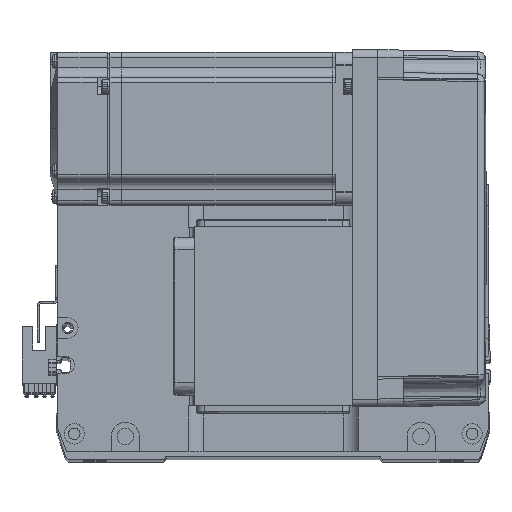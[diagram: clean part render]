
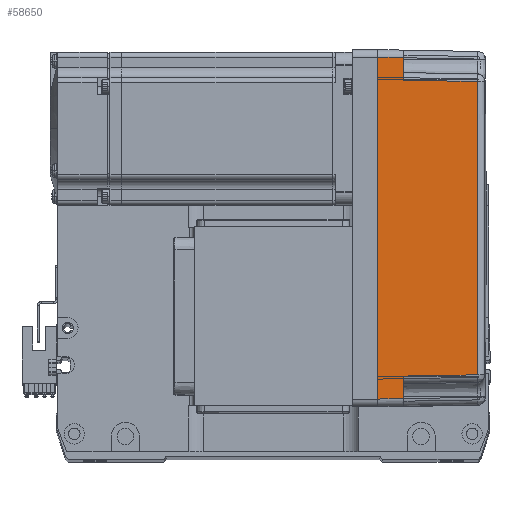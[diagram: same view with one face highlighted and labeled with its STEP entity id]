
A CAD part, top view. The second image highlights one B-rep face of the part: STEP entity #58650.
In plain terms, the highlighted planar face has unit normal (0.018, 0, 1) as drawn and (0, -1, 0.017) by its records, which use the part's own axes.
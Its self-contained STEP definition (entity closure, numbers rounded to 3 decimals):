
#751 = CARTESIAN_POINT ( 'NONE',  ( 70., -36., 0. ) ) ;
#966 = EDGE_CURVE ( 'NONE', #9603, #36019, #34088, .T. ) ;
#1950 = ORIENTED_EDGE ( 'NONE', *, *, #56020, .T. ) ;
#4414 = EDGE_CURVE ( 'NONE', #55335, #60046, #23324, .T. ) ;
#5197 = LINE ( 'NONE', #16824, #23066 ) ;
#5715 = DIRECTION ( 'NONE',  ( 0., -0.017, -1. ) ) ;
#6318 = CARTESIAN_POINT ( 'NONE',  ( -19.165, -35.316, 39.181 ) ) ;
#6892 = CARTESIAN_POINT ( 'NONE',  ( 19.165, -35.316, 39.181 ) ) ;
#7095 = EDGE_LOOP ( 'NONE', ( #38653, #24751, #19065, #29557, #54788, #1950, #22208, #16922 ) ) ;
#8500 = CARTESIAN_POINT ( 'NONE',  ( 0., -36., 0. ) ) ;
#9043 = CARTESIAN_POINT ( 'NONE',  ( 58., -35.825, 10. ) ) ;
#9347 = VECTOR ( 'NONE', #57649, 1000. ) ;
#9518 = DIRECTION ( 'NONE',  ( -0.017, 0.017, 1. ) ) ;
#9603 = VERTEX_POINT ( 'NONE', #20522 ) ;
#11702 = CARTESIAN_POINT ( 'NONE',  ( 70., -35.825, 10. ) ) ;
#15092 = DIRECTION ( 'NONE',  ( 0., -1., 0.017 ) ) ;
#15948 = CARTESIAN_POINT ( 'NONE',  ( 70., -35.825, 10. ) ) ;
#16824 = CARTESIAN_POINT ( 'NONE',  ( -66.959, -35.958, 2.39 ) ) ;
#16922 = ORIENTED_EDGE ( 'NONE', *, *, #52327, .F. ) ;
#17284 = EDGE_CURVE ( 'NONE', #36019, #55335, #36211, .T. ) ;
#18423 = LINE ( 'NONE', #15948, #54701 ) ;
#19065 = ORIENTED_EDGE ( 'NONE', *, *, #4414, .T. ) ;
#19357 = CARTESIAN_POINT ( 'NONE',  ( -57.495, -35.32, 38.985 ) ) ;
#20522 = CARTESIAN_POINT ( 'NONE',  ( 67., -36., 0. ) ) ;
#22166 = DIRECTION ( 'NONE',  ( -0.017, 0.017, 1. ) ) ;
#22208 = ORIENTED_EDGE ( 'NONE', *, *, #60145, .F. ) ;
#22613 = VECTOR ( 'NONE', #9518, 1000. ) ;
#23066 = VECTOR ( 'NONE', #40435, 1000. ) ;
#23324 = LINE ( 'NONE', #57023, #22613 ) ;
#23420 = PLANE ( 'NONE',  #30849 ) ;
#24751 = ORIENTED_EDGE ( 'NONE', *, *, #17284, .T. ) ;
#25076 = VECTOR ( 'NONE', #45329, 1000. ) ;
#26488 = VERTEX_POINT ( 'NONE', #46231 ) ;
#27304 = CARTESIAN_POINT ( 'NONE',  ( -66.826, -35.825, 10. ) ) ;
#27539 = VERTEX_POINT ( 'NONE', #55927 ) ;
#28513 = VECTOR ( 'NONE', #32417, 1000. ) ;
#29557 = ORIENTED_EDGE ( 'NONE', *, *, #48988, .T. ) ;
#30849 = AXIS2_PLACEMENT_3D ( 'NONE', #751, #15092, #5715 ) ;
#32417 = DIRECTION ( 'NONE',  ( -1., 0., 0. ) ) ;
#34088 = LINE ( 'NONE', #36028, #57787 ) ;
#36019 = VERTEX_POINT ( 'NONE', #38852 ) ;
#36028 = CARTESIAN_POINT ( 'NONE',  ( 67., -36., 0. ) ) ;
#36211 = LINE ( 'NONE', #11702, #25076 ) ;
#38653 = ORIENTED_EDGE ( 'NONE', *, *, #966, .T. ) ;
#38852 = CARTESIAN_POINT ( 'NONE',  ( 66.826, -35.825, 10. ) ) ;
#39709 = CARTESIAN_POINT ( 'NONE',  ( -57.495, -35.32, 38.985 ) ) ;
#40435 = DIRECTION ( 'NONE',  ( 0.017, 0.017, 1. ) ) ;
#41110 = LINE ( 'NONE', #8500, #28513 ) ;
#42307 = VERTEX_POINT ( 'NONE', #27304 ) ;
#43550 = VERTEX_POINT ( 'NONE', #39709 ) ;
#45329 = DIRECTION ( 'NONE',  ( -1., 0., 0. ) ) ;
#46231 = CARTESIAN_POINT ( 'NONE',  ( -58., -35.825, 10. ) ) ;
#46791 = B_SPLINE_CURVE_WITH_KNOTS ( 'NONE', 3,
 ( #49705, #6892, #6318, #54411 ),
 .UNSPECIFIED., .F., .F.,
 ( 4, 4 ),
 ( 0., 1. ),
 .UNSPECIFIED. ) ;
#47272 = LINE ( 'NONE', #19357, #9347 ) ;
#48525 = DIRECTION ( 'NONE',  ( -1., 0., 0. ) ) ;
#48988 = EDGE_CURVE ( 'NONE', #60046, #43550, #46791, .T. ) ;
#49246 = FACE_OUTER_BOUND ( 'NONE', #7095, .T. ) ;
#49705 = CARTESIAN_POINT ( 'NONE',  ( 57.495, -35.32, 38.985 ) ) ;
#52327 = EDGE_CURVE ( 'NONE', #9603, #27539, #41110, .T. ) ;
#54411 = CARTESIAN_POINT ( 'NONE',  ( -57.495, -35.32, 38.985 ) ) ;
#54701 = VECTOR ( 'NONE', #48525, 1000. ) ;
#54788 = ORIENTED_EDGE ( 'NONE', *, *, #57122, .T. ) ;
#55335 = VERTEX_POINT ( 'NONE', #9043 ) ;
#55927 = CARTESIAN_POINT ( 'NONE',  ( -67., -36., 0. ) ) ;
#56020 = EDGE_CURVE ( 'NONE', #26488, #42307, #18423, .T. ) ;
#57023 = CARTESIAN_POINT ( 'NONE',  ( 58., -35.825, 10. ) ) ;
#57122 = EDGE_CURVE ( 'NONE', #43550, #26488, #47272, .T. ) ;
#57649 = DIRECTION ( 'NONE',  ( -0.017, -0.017, -1. ) ) ;
#57787 = VECTOR ( 'NONE', #22166, 1000. ) ;
#58650 = ADVANCED_FACE ( 'NONE', ( #49246 ), #23420, .T. ) ;
#59097 = CARTESIAN_POINT ( 'NONE',  ( 57.495, -35.32, 38.985 ) ) ;
#60046 = VERTEX_POINT ( 'NONE', #59097 ) ;
#60145 = EDGE_CURVE ( 'NONE', #27539, #42307, #5197, .T. ) ;
